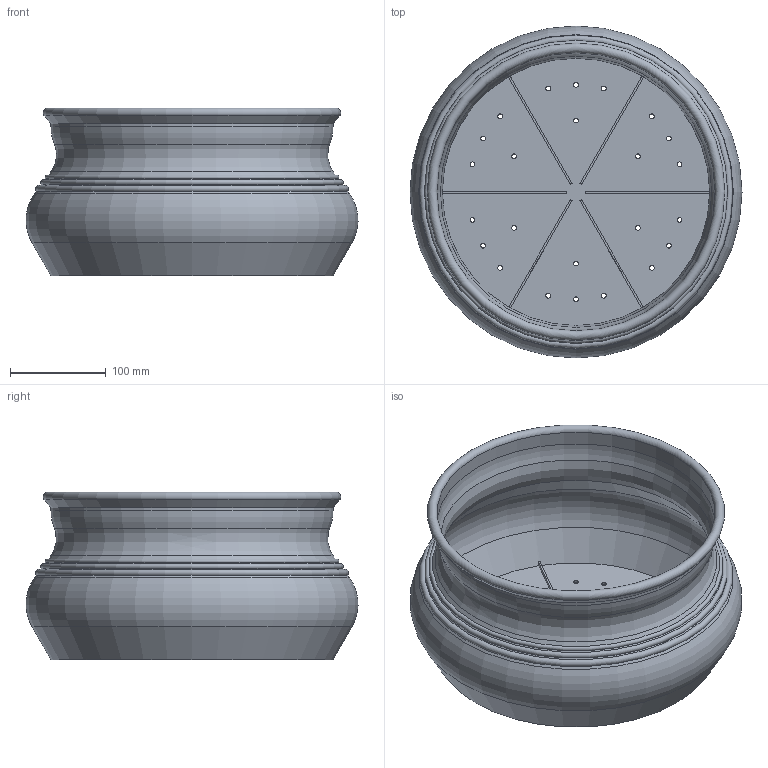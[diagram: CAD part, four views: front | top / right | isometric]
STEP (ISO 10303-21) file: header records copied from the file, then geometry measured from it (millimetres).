
FILE_DESCRIPTION(/* description */ (''),/* implementation_level */ '2;1');
FILE_NAME(/* name */ 'LR2406-S20-H175-D350_step.step',/* time_stamp */ '2024-02-01T11:01:50+01:00',/* author */ (''),/* organization */ (''),/* preprocessor_version */ 'ST-DEVELOPER v20',/* originating_system */ 'Autodesk Translation Framework v12.20.1.177',/* authorisation */ '');
FILE_SCHEMA (('AUTOMOTIVE_DESIGN { 1 0 10303 214 3 1 1 }'));
Length unit declared in the file: millimetre
Products named in the file (1): LR2406-S20-H175-D350
Bounding box: 345.97 x 345.97 x 175 mm (x, y, z)
Volume: 617993.4 mm3; surface area: 527480.4 mm2
Topology: 1 solids, 1 shells, 70 faces, 185 edges, 117 vertices
Faces by surface type: cylinder 32, plane 20, torus 10, cone 8
Full cylindrical faces by diameter (mm): 5 x24, 290 x1, 294 x1
Entity records: 2336 total; most frequent: DIRECTION 430, CARTESIAN_POINT 373, ORIENTED_EDGE 370, EDGE_CURVE 185, AXIS2_PLACEMENT_3D 174, EDGE_LOOP 118, VERTEX_POINT 117, CIRCLE 103
